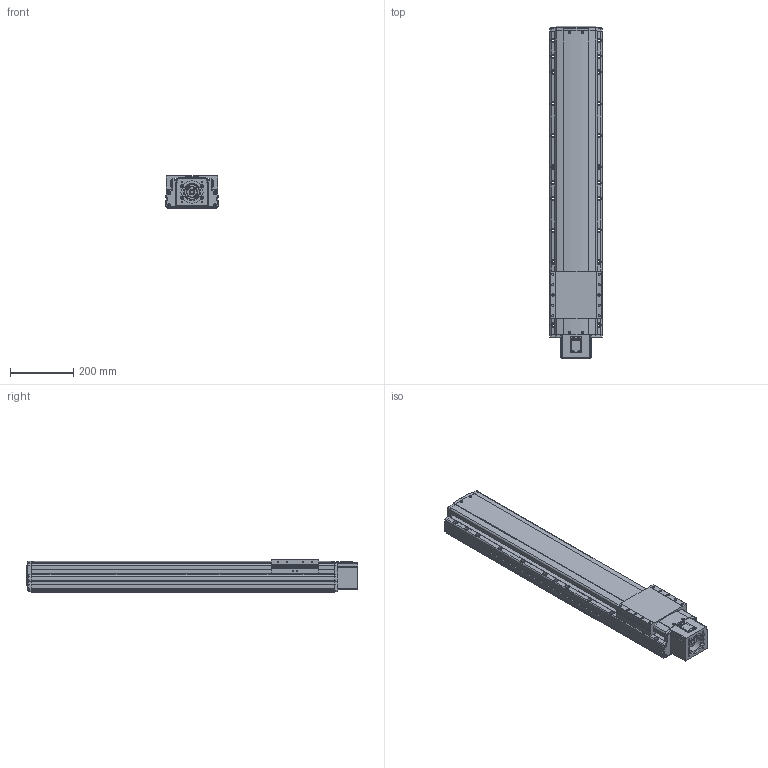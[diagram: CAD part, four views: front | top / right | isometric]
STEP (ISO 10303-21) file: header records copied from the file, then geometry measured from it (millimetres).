
FILE_DESCRIPTION(('STEP AP214'),'1');
FILE_NAME('Z:/Web/3D/PSA165/STP/PSA165-700 (3D)/PSA165ㅁㅁ-700S.stp','2014-06-23T11:33:20',(' '),(' '),'Spatial InterOp 3D',' ',' ');
FILE_SCHEMA(('automotive_design'));
Length unit declared in the file: millimetre
Products named in the file (67): 스크루 : Round - M4.0 x 12.0; RRCV-PA160; BASE; 스크루 : Round - M4.0 x 10.0; RN15; Screw 20; SLIDE; FRCV; 스크루 : Socket - M6.0 x 25.0; MTHZ-SAN150-80A; SSFX-SAN65; CPLCV-SAN65; 스크루 : Round - M3.0 x 6.0; SDWA47C(2); SDWA47C(3-1); SDWA47C(3); SDWA47C(1); SDWA47C(4); SDWA47C(5)
Bounding box: 165 x 1049.8 x 104 mm (x, y, z)
Volume: 14019285.5 mm3; surface area: 976744.4 mm2
Topology: 67 solids, 67 shells, 3012 faces, 8031 edges, 5161 vertices
Faces by surface type: plane 1388, cylinder 1154, cone 361, sphere 50, bspline 35, torus 24
Entity records: 123759 total; most frequent: CARTESIAN_POINT 21785, DIRECTION 16703, ORIENTED_EDGE 15750, EDGE_CURVE 7875, AXIS2_PLACEMENT_3D 6049, VERTEX_POINT 5161, LINE 4605, VECTOR 4605
